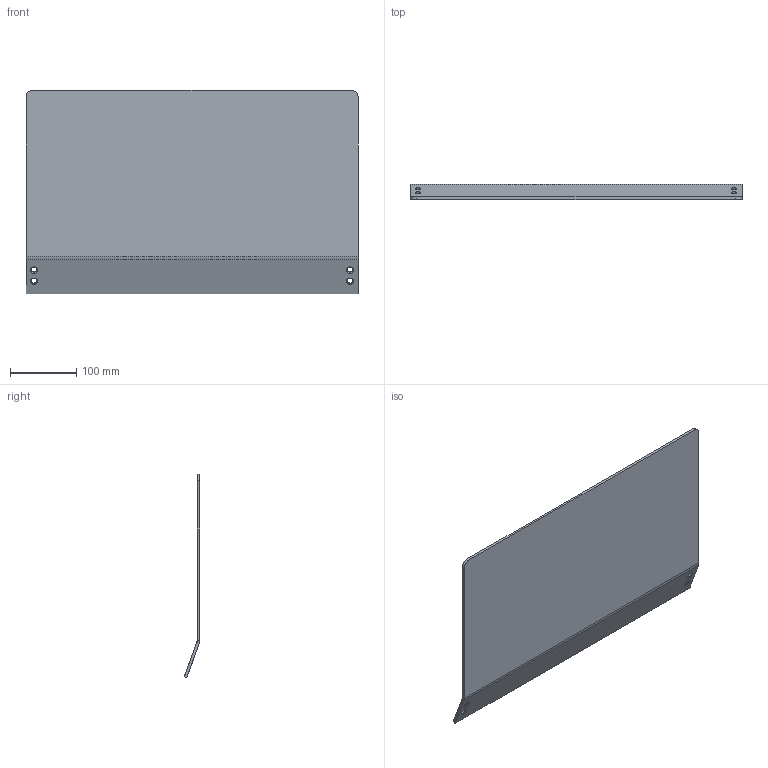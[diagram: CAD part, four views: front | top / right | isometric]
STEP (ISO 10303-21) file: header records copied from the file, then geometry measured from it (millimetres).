
FILE_DESCRIPTION (( 'STEP AP203' ), '1' );
FILE_NAME ('ORW-72.24.50.001 Ïëàòôîðìà.STEP', '2025-12-18T10:50:47', ( 'Àíäðåé' ), ( '' ), 'SwSTEP 2.0', 'SolidWorks 2025', '' );
FILE_SCHEMA (( 'CONFIG_CONTROL_DESIGN' ));
Length unit declared in the file: millimetre
Products named in the file (1): ORW-72.24.50.001 Платформа
Bounding box: 500 x 23.41 x 306.47 mm (x, y, z)
Volume: 617144 mm3; surface area: 315428.7 mm2
Topology: 1 solids, 1 shells, 24 faces, 58 edges, 36 vertices
Faces by surface type: plane 12, cylinder 8, cone 4
Full cylindrical faces by diameter (mm): 8.9 x4
Entity records: 715 total; most frequent: DIRECTION 116, CARTESIAN_POINT 103, ORIENTED_EDGE 92, EDGE_CURVE 46, AXIS2_PLACEMENT_3D 45, EDGE_LOOP 40, VERTEX_POINT 32, FACE_OUTER_BOUND 28
